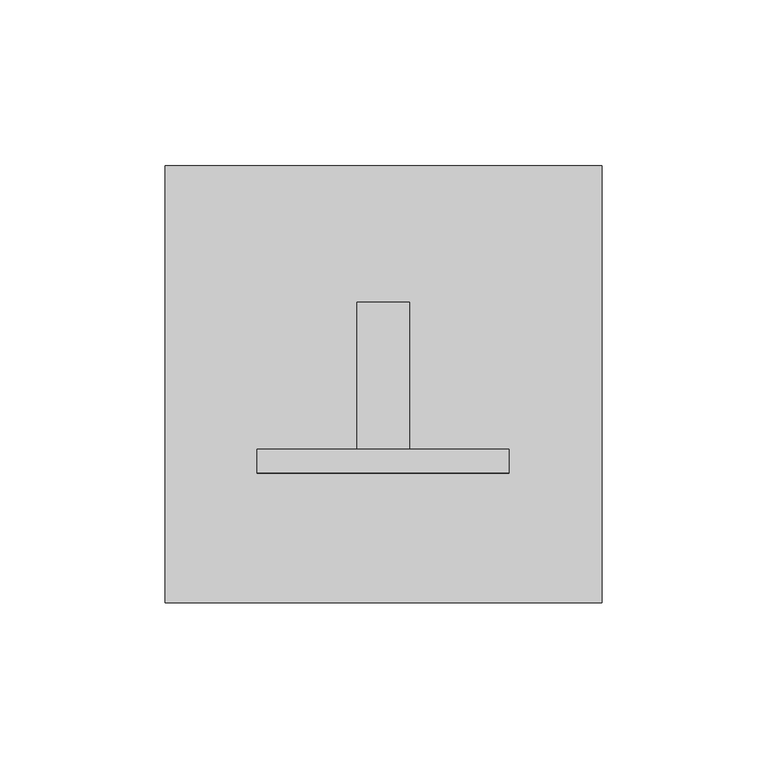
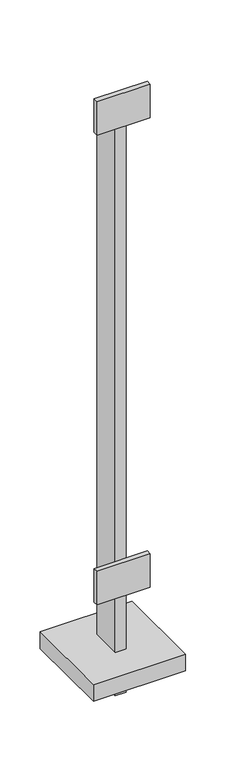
"""IFC4 building model written with IfcOpenShell, lengths in millimetres: proxy geometry, Baluster-End-Post-VIVA-STRUC-Top Mount : ANCHORED TO CONCRETE_TOP MOUNT STRUC_STRAIGHT."""

from ifc_helpers import new_model, si_unit, frame, origin, place, context, project, spatial, polyline, outline, extrude, source, transform, mapped, element, save


def building_element_proxy_d87515a7(model_context):
    return source(origin(), model_context, "Body", "SweptSolid", [
        extrude(outline(polyline([(58.9780808, -123.8478567), (58.9780808, -116.7358567), (135.1795192, -116.7358567), (135.1795192, -123.8478567), (58.9780808, -123.8478567)])), frame((0.0, 0.0, 824.3906928), z_axis=(0.0, 0.0, 1.0), x_axis=(1.0, 0.0, 0.0)), (0.0, 0.0, 1.0), 50.8),
        extrude(outline(polyline([(58.9780808, -123.8478567), (58.9780808, -116.7358567), (135.1795192, -116.7358567), (135.1795192, -123.8478567), (58.9780808, -123.8478567)])), frame((0.0, 0.0, 113.1906928), z_axis=(0.0, 0.0, 1.0), x_axis=(1.0, 0.0, 0.0)), (0.0, 0.0, 1.0), 50.8),
        extrude(outline(polyline([(163.19755, -30.878288), (163.19755, -162.878288), (31.19755, -162.878288), (31.19755, -30.878288), (163.19755, -30.878288)])), frame((0.0, 0.0, 0.5143555), z_axis=(0.0, 0.0, 1.0), x_axis=(1.0, 0.0, 0.0)), (0.0, 0.0, 1.0), 25.4),
        extrude(outline(polyline([(89.1413, -72.2858567), (105.0163, -72.2858567), (105.0163, -116.7358567), (89.1413, -116.7358567), (89.1413, -72.2858567)])), frame((0.0, 0.0, -39.2093072), z_axis=(0.0, 0.0, 1.0), x_axis=(1.0, 0.0, 0.0)), (0.0, 0.0, 1.0), 870.9831072),
    ])


if __name__ == "__main__":
    model = new_model("IFC4")
    model_context = context("Model", 3, world=origin())
    ifc_project = project(units=[si_unit("LENGTHUNIT", "METRE", prefix="MILLI")], contexts=[model_context])
    site = spatial("IfcSite", under=ifc_project)
    building = spatial("IfcBuilding", under=site)
    placement = place(None, origin())
    building_element_proxy_shape = building_element_proxy_d87515a7(model_context)
    element("IfcBuildingElementProxy", 1, Name="Baluster-End-Post-VIVA-STRUC-Top Mount : ANCHORED TO CONCRETE_TOP MOUNT STRUC_STRAIGHT", ObjectType="Baluster-End-Post-VIVA-STRUC-Top Mount : ANCHORED TO CONCRETE_TOP MOUNT STRUC_STRAIGHT", at=placement, inside=building, context=model_context, shape_type="MappedRepresentation", body=[
        mapped(building_element_proxy_shape, transform((0.0, 0.0, 0.0), x_axis=(1.0, 0.0, 0.0), y_axis=(0.0, 1.0, 0.0), z_axis=(0.0, 0.0, 1.0))),
    ])
    save(model, "model.ifc")
